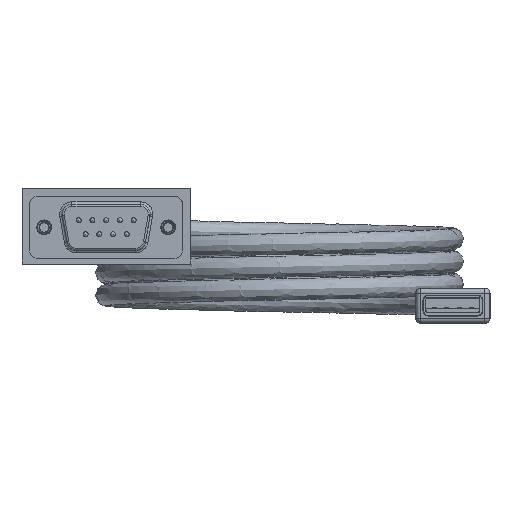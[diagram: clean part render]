
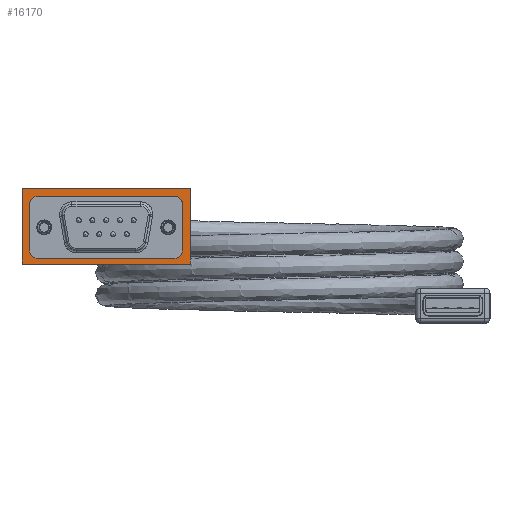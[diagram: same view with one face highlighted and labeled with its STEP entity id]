
A CAD part, top view. The second image highlights one B-rep face of the part: STEP entity #16170.
In plain terms, the highlighted planar face has unit normal (0, 0, 1).
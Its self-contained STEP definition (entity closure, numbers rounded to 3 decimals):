
#502=PLANE('',#17323);
#991=FACE_BOUND('',#2297,.T.);
#1271=FACE_OUTER_BOUND('',#2296,.T.);
#2296=EDGE_LOOP('',(#11571,#11572,#11573,#11574));
#2297=EDGE_LOOP('',(#11575,#11576,#11577,#11578,#11579,#11580,#11581,#11582,
#11583,#11584,#11585));
#3214=CIRCLE('',#17074,1.5);
#3241=CIRCLE('',#17112,1.5);
#3242=CIRCLE('',#17115,1.5);
#3328=CIRCLE('',#17324,1.5);
#3329=CIRCLE('',#17325,1.5);
#4192=LINE('',#25382,#5472);
#4208=LINE('',#25769,#5488);
#4212=LINE('',#25779,#5492);
#4351=LINE('',#28650,#5631);
#4352=LINE('',#28652,#5632);
#4353=LINE('',#28654,#5633);
#4354=LINE('',#28655,#5634);
#4355=LINE('',#28657,#5635);
#4356=LINE('',#28659,#5636);
#4357=LINE('',#28663,#5637);
#5472=VECTOR('',#18824,10.);
#5488=VECTOR('',#18916,10.);
#5492=VECTOR('',#18926,10.);
#5631=VECTOR('',#19485,10.);
#5632=VECTOR('',#19486,10.);
#5633=VECTOR('',#19487,10.);
#5634=VECTOR('',#19488,10.);
#5635=VECTOR('',#19489,10.);
#5636=VECTOR('',#19490,10.);
#5637=VECTOR('',#19493,10.);
#6803=VERTEX_POINT('',#25380);
#6804=VERTEX_POINT('',#25381);
#6807=VERTEX_POINT('',#25389);
#6857=VERTEX_POINT('',#25768);
#6858=VERTEX_POINT('',#25772);
#6859=VERTEX_POINT('',#25773);
#6860=VERTEX_POINT('',#25778);
#6998=VERTEX_POINT('',#28648);
#6999=VERTEX_POINT('',#28649);
#7000=VERTEX_POINT('',#28651);
#7001=VERTEX_POINT('',#28653);
#7002=VERTEX_POINT('',#28656);
#7003=VERTEX_POINT('',#28658);
#7004=VERTEX_POINT('',#28660);
#7005=VERTEX_POINT('',#28662);
#8391=EDGE_CURVE('',#6803,#6804,#4192,.T.);
#8395=EDGE_CURVE('',#6807,#6804,#3214,.T.);
#8447=EDGE_CURVE('',#6857,#6807,#4208,.T.);
#8449=EDGE_CURVE('',#6858,#6859,#3241,.T.);
#8452=EDGE_CURVE('',#6859,#6860,#4212,.T.);
#8454=EDGE_CURVE('',#6860,#6857,#3242,.T.);
#8740=EDGE_CURVE('',#6998,#6999,#4351,.T.);
#8741=EDGE_CURVE('',#7000,#6999,#4352,.T.);
#8742=EDGE_CURVE('',#7001,#7000,#4353,.T.);
#8743=EDGE_CURVE('',#7001,#6998,#4354,.T.);
#8744=EDGE_CURVE('',#7002,#6858,#4355,.T.);
#8745=EDGE_CURVE('',#7003,#6803,#4356,.T.);
#8746=EDGE_CURVE('',#7004,#7003,#3328,.T.);
#8747=EDGE_CURVE('',#7005,#7004,#4357,.T.);
#8748=EDGE_CURVE('',#7005,#7002,#3329,.T.);
#11571=ORIENTED_EDGE('',*,*,#8740,.T.);
#11572=ORIENTED_EDGE('',*,*,#8741,.F.);
#11573=ORIENTED_EDGE('',*,*,#8742,.F.);
#11574=ORIENTED_EDGE('',*,*,#8743,.T.);
#11575=ORIENTED_EDGE('',*,*,#8744,.T.);
#11576=ORIENTED_EDGE('',*,*,#8449,.T.);
#11577=ORIENTED_EDGE('',*,*,#8452,.T.);
#11578=ORIENTED_EDGE('',*,*,#8454,.T.);
#11579=ORIENTED_EDGE('',*,*,#8447,.T.);
#11580=ORIENTED_EDGE('',*,*,#8395,.T.);
#11581=ORIENTED_EDGE('',*,*,#8391,.F.);
#11582=ORIENTED_EDGE('',*,*,#8745,.F.);
#11583=ORIENTED_EDGE('',*,*,#8746,.F.);
#11584=ORIENTED_EDGE('',*,*,#8747,.F.);
#11585=ORIENTED_EDGE('',*,*,#8748,.T.);
#16170=ADVANCED_FACE('',(#1271,#991),#502,.T.);
#17074=AXIS2_PLACEMENT_3D('',#25390,#18830,#18831);
#17112=AXIS2_PLACEMENT_3D('',#25774,#18920,#18921);
#17115=AXIS2_PLACEMENT_3D('',#25782,#18930,#18931);
#17323=AXIS2_PLACEMENT_3D('',#28647,#19483,#19484);
#17324=AXIS2_PLACEMENT_3D('',#28661,#19491,#19492);
#17325=AXIS2_PLACEMENT_3D('',#28664,#19494,#19495);
#18824=DIRECTION('',(-1.,0.,0.));
#18830=DIRECTION('center_axis',(0.,0.,-1.));
#18831=DIRECTION('ref_axis',(0.,1.,0.));
#18916=DIRECTION('',(0.,1.,0.));
#18920=DIRECTION('center_axis',(0.,0.,-1.));
#18921=DIRECTION('ref_axis',(1.,0.,0.));
#18926=DIRECTION('',(-1.,0.,0.));
#18930=DIRECTION('center_axis',(0.,0.,-1.));
#18931=DIRECTION('ref_axis',(1.,0.,0.));
#19483=DIRECTION('center_axis',(0.,0.,1.));
#19484=DIRECTION('ref_axis',(1.,0.,0.));
#19485=DIRECTION('',(0.,1.,0.));
#19486=DIRECTION('',(1.,0.,0.));
#19487=DIRECTION('',(0.,1.,0.));
#19488=DIRECTION('',(1.,0.,0.));
#19489=DIRECTION('',(0.,-1.,0.));
#19490=DIRECTION('',(-1.,0.,0.));
#19491=DIRECTION('center_axis',(0.,0.,1.));
#19492=DIRECTION('ref_axis',(0.,1.,0.));
#19493=DIRECTION('',(0.,1.,0.));
#19494=DIRECTION('center_axis',(0.,0.,-1.));
#19495=DIRECTION('ref_axis',(0.,-1.,0.));
#25380=CARTESIAN_POINT('',(13.89,6.035,-1.472));
#25381=CARTESIAN_POINT('',(-13.91,6.035,-1.472));
#25382=CARTESIAN_POINT('',(15.455,6.035,-1.472));
#25389=CARTESIAN_POINT('',(-15.41,4.535,-1.472));
#25390=CARTESIAN_POINT('Origin',(-13.91,4.535,-1.472));
#25768=CARTESIAN_POINT('',(-15.41,-4.965,-1.472));
#25769=CARTESIAN_POINT('',(-15.41,-2.483,-1.472));
#25772=CARTESIAN_POINT('',(15.39,-4.965,-1.472));
#25773=CARTESIAN_POINT('',(13.89,-6.465,-1.472));
#25774=CARTESIAN_POINT('Origin',(13.89,-4.965,-1.472));
#25778=CARTESIAN_POINT('',(-13.91,-6.465,-1.472));
#25779=CARTESIAN_POINT('',(-1.555,-6.465,-1.472));
#25782=CARTESIAN_POINT('Origin',(-13.91,-4.965,-1.472));
#28647=CARTESIAN_POINT('Origin',(-17.,0.,-1.472));
#28648=CARTESIAN_POINT('',(17.,-7.625,-1.472));
#28649=CARTESIAN_POINT('',(17.,7.625,-1.472));
#28650=CARTESIAN_POINT('',(17.,0.,-1.472));
#28651=CARTESIAN_POINT('',(-17.,7.625,-1.472));
#28652=CARTESIAN_POINT('',(-17.,7.625,-1.472));
#28653=CARTESIAN_POINT('',(-17.,-7.625,-1.472));
#28654=CARTESIAN_POINT('',(-17.,0.,-1.472));
#28655=CARTESIAN_POINT('',(-17.,-7.625,-1.472));
#28656=CARTESIAN_POINT('',(15.39,-4.773,-1.472));
#28657=CARTESIAN_POINT('',(15.39,-2.483,-1.472));
#28658=CARTESIAN_POINT('',(13.91,6.035,-1.472));
#28659=CARTESIAN_POINT('',(15.455,6.035,-1.472));
#28660=CARTESIAN_POINT('',(15.41,4.535,-1.472));
#28661=CARTESIAN_POINT('Origin',(13.91,4.535,-1.472));
#28662=CARTESIAN_POINT('',(15.41,-4.535,-1.472));
#28663=CARTESIAN_POINT('',(15.41,-2.483,-1.472));
#28664=CARTESIAN_POINT('Origin',(13.91,-4.535,-1.472));
